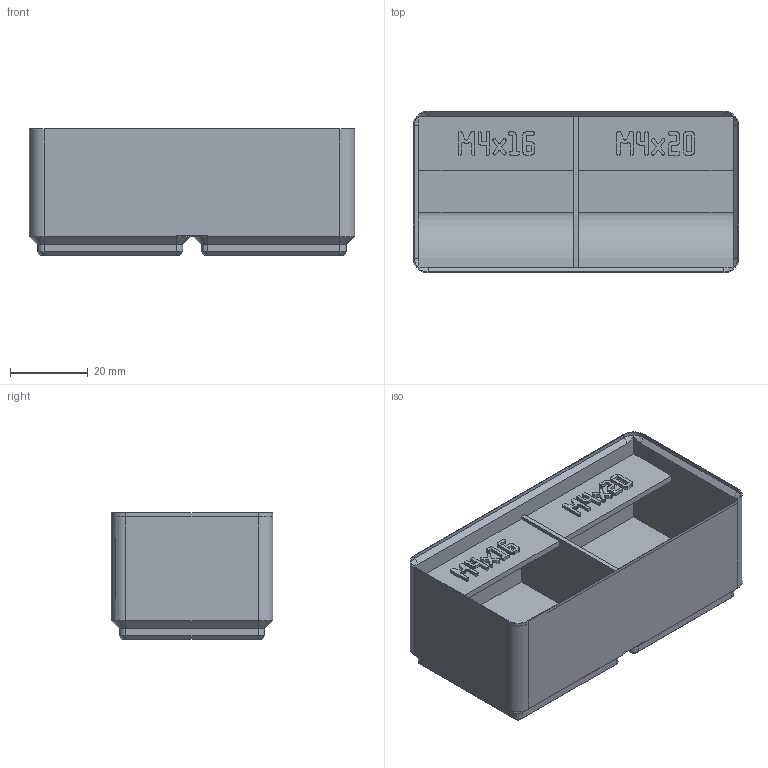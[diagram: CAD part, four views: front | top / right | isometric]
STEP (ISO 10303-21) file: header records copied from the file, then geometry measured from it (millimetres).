
FILE_DESCRIPTION(('Open CASCADE Model'),'2;1');
FILE_NAME('Open CASCADE Shape Model','2026-11-16T17:32:25',('Author'),( 'Open CASCADE'),'Open CASCADE STEP processor 8.0','build123d', 'Unknown');
FILE_SCHEMA(('AUTOMOTIVE_DESIGN { 1 0 10303 214 1 1 1 1 }'));
Products named in the file (1): SOLID
Bounding box: 83.5 x 41.5 x 32.4 mm (x, y, z)
Volume: 48719.8 mm3; surface area: 22438.4 mm2
Topology: 1 solids, 1 shells, 1103 faces, 3202 edges, 2116 vertices
Faces by surface type: plane 1061, cylinder 22, cone 20
Entity records: 75220 total; most frequent: CARTESIAN_POINT 15134, DIRECTION 9740, LINE 7388, VECTOR 7388, ORIENTED_EDGE 6404, PCURVE 6404, DEFINITIONAL_REPRESENTATION 6404, EDGE_CURVE 3202
